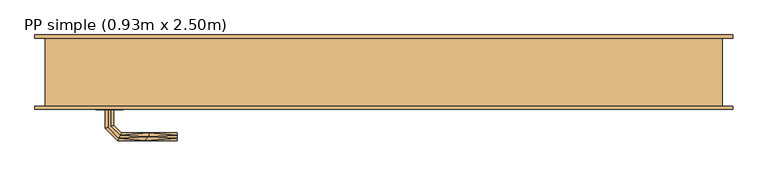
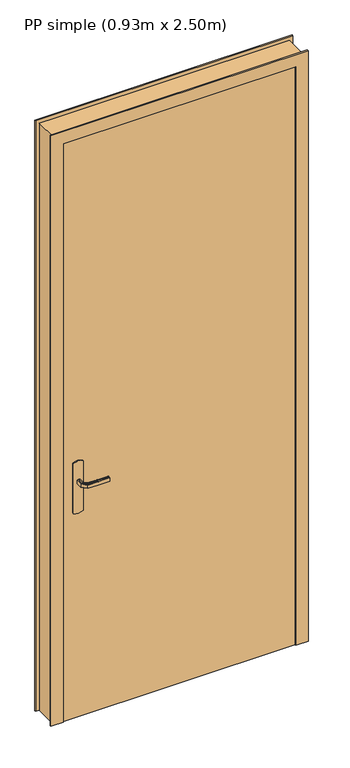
"""IFC4 building model written with IfcOpenShell, lengths in millimetres: door geometry, PP simple (0.93m x 2.50m)."""

from ifc_helpers import new_model, si_unit, frame, origin, origin_with_axes, place, context, project, spatial, polyline, outline, extrude, faceted_brep, source, transform, mapped, element, save


def pp_simple_0_93m_x_2_50m_16770945(model_context):
    return source(origin(), model_context, "Body", "SolidModel", [
        extrude(outline(polyline([(35.0, 40.0), (965.0, 40.0), (965.0, 0.0), (35.0, 0.0), (35.0, 40.0)])), origin_with_axes(), (0.0, 0.0, 1.0), 2450.0),
        faceted_brep([(0.0, 100.0, 0.0), (-15.0, 100.0, 0.0), (-15.0, 105.0, 0.0), (50.0, 105.0, 0.0), (50.0, 40.0, 0.0), (35.0, 40.0, 0.0), (35.0, -5.0, 0.0), (-15.0, -5.0, 0.0), (-15.0, 0.0, 0.0), (0.0, 0.0, 0.0), (0.0, 0.0, 2485.0), (0.0, 100.0, 2485.0), (1000.0, 100.0, 2485.0), (1000.0, 100.0, 0.0), (1015.0, 100.0, 0.0), (1015.0, 100.0, 2500.0), (-15.0, 100.0, 2500.0), (50.0, 105.0, 2435.0), (50.0, 40.0, 2435.0), (950.0, 40.0, 2435.0), (950.0, 40.0, 0.0), (965.0, 40.0, 0.0), (965.0, 40.0, 2450.0), (35.0, 40.0, 2450.0), (1000.0, 0.0, 2485.0), (1000.0, 0.0, 0.0), (1015.0, 0.0, 0.0), (1015.0, -5.0, 0.0), (965.0, -5.0, 0.0), (950.0, 105.0, 0.0), (1015.0, 105.0, 0.0), (950.0, 105.0, 2435.0), (35.0, -5.0, 2450.0), (965.0, -5.0, 2450.0), (1015.0, -5.0, 2500.0), (-15.0, -5.0, 2500.0), (-15.0, 0.0, 2500.0), (1015.0, 0.0, 2500.0), (-15.0, 105.0, 2500.0), (1015.0, 105.0, 2500.0)], [[[0, 1, 2, 3, 4, 5, 6, 7, 8, 9]], [[0, 9, 10, 11]], [[1, 0, 11, 12, 13, 14, 15, 16]], [[3, 17, 18, 4]], [[5, 4, 18, 19, 20, 21, 22, 23]], [[12, 24, 25, 13]], [[13, 25, 26, 27, 28, 21, 20, 29, 30, 14]], [[19, 31, 29, 20]], [[11, 10, 24, 12]], [[18, 17, 31, 19]], [[5, 23, 32, 6]], [[7, 6, 32, 33, 28, 27, 34, 35]], [[8, 7, 35, 36]], [[9, 8, 36, 37, 26, 25, 24, 10]], [[2, 1, 16, 38]], [[3, 2, 38, 39, 30, 29, 31, 17]], [[33, 22, 21, 28]], [[37, 34, 27, 26]], [[39, 15, 14, 30]], [[32, 23, 22, 33]], [[36, 35, 34, 37]], [[38, 16, 15, 39]]]),
        extrude(outline(polyline([(866.0039831, 105.3527618), (870.0, 115.0), (1080.0, 115.0), (1083.9960169, 105.3527618), (1085.3589838, 95.0), (1083.9960169, 84.6472382), (1080.0, 75.0), (870.0, 75.0), (866.0039831, 84.6472382), (864.6410162, 95.0), (866.0039831, 105.3527618)])), frame((0.0, 40.0, 0.0), z_axis=(0.0, 1.0, 0.0), x_axis=(0.0, 0.0, 1.0)), (0.0, 0.0, 1.0), 5.0),
        faceted_brep([(92.9747013, 45.0, 1007.7804408), (89.0, 45.0, 1007.0), (89.0, 45.0, 993.0), (92.9747013, 45.0, 992.2195592), (97.0252987, 45.0, 992.2195592), (101.0, 45.0, 993.0), (101.0, 45.0, 1007.0), (97.0252987, 45.0, 1007.7804408), (101.0, 67.4852045, 993.0), (101.0, 67.4852045, 1007.0), (97.0252987, 69.1315797, 1007.7804408), (110.8389062, 82.9451872, 1007.7804408), (109.1610938, 86.9957845, 1007.7804408), (92.9747013, 70.8093921, 1007.7804408), (89.0, 72.4557673, 1007.0), (89.0, 72.4557673, 993.0), (92.9747013, 70.8093921, 992.2195592), (109.1610938, 86.9957845, 992.2195592), (110.8389062, 82.9451872, 992.2195592), (97.0252987, 69.1315797, 992.2195592), (112.4852814, 78.9704859, 993.0), (112.4852814, 78.9704859, 1007.0), (107.5147186, 90.9704859, 1007.0), (107.5147186, 90.9704859, 993.0), (195.0457837, 78.9704859, 993.0), (195.0457837, 82.9451872, 992.2195592), (195.0457837, 86.9957845, 992.2195592), (195.0457837, 90.9704859, 993.0), (195.0457837, 90.9704859, 1007.0), (195.0457837, 86.9957845, 1007.7804408), (195.0457837, 82.9451872, 1007.7804408), (195.0457837, 78.9704859, 1007.0), (153.7655206, 78.9704859, 993.0), (153.7655325, 78.9704859, 1007.0), (152.9423449, 84.9704859, 1007.8786868), (147.4452058, 90.9704859, 1007.0), (147.4452043, 90.9704859, 993.0), (152.9423451, 84.9704858, 992.1213132)], [[[0, 1, 2, 3, 4, 5, 6, 7]], [[6, 5, 8, 9]], [[9, 10, 7, 6]], [[10, 11, 12, 13, 0, 7]], [[13, 14, 1, 0]], [[2, 1, 14, 15]], [[15, 16, 3, 2]], [[16, 17, 18, 19, 4, 3]], [[19, 8, 5, 4]], [[9, 8, 20, 21]], [[21, 11, 10, 9]], [[12, 22, 14, 13]], [[15, 14, 22, 23]], [[23, 17, 16, 15]], [[18, 20, 8, 19]], [[24, 25, 26, 27, 28, 29, 30, 31]], [[21, 20, 32, 24, 31, 33]], [[33, 30, 34]], [[35, 34, 29]], [[21, 33, 11]], [[33, 31, 30]], [[28, 35, 29]], [[22, 12, 35]], [[35, 12, 34]], [[12, 11, 34]], [[11, 33, 34]], [[29, 34, 30]], [[22, 35, 28, 27, 36, 23]], [[36, 26, 37]], [[27, 26, 36]], [[17, 23, 36]], [[37, 32, 18]], [[20, 18, 32]], [[32, 25, 24]], [[26, 25, 37]], [[25, 32, 37]], [[17, 36, 37]], [[17, 37, 18]]]),
        extrude(outline(polyline([(866.0039831, 105.3527618), (870.0, 115.0), (1080.0, 115.0), (1083.9960169, 105.3527618), (1085.3589838, 95.0), (1083.9960169, 84.6472382), (1080.0, 75.0), (870.0, 75.0), (866.0039831, 84.6472382), (864.6410162, 95.0), (866.0039831, 105.3527618)])), frame((0.0, -5.0, 0.0), z_axis=(0.0, 1.0, 0.0), x_axis=(0.0, 0.0, 1.0)), (0.0, 0.0, 1.0), 5.0),
        faceted_brep([(92.9747013, -5.0, 1007.7804408), (97.0252987, -5.0, 1007.7804408), (101.0, -5.0, 1007.0), (101.0, -5.0, 993.0), (97.0252987, -5.0, 992.2195592), (92.9747013, -5.0, 992.2195592), (89.0, -5.0, 993.0), (89.0, -5.0, 1007.0), (89.0, -32.6509507, 1007.0), (92.9747013, -31.0045755, 1007.7804408), (109.0235852, -47.0534593, 1007.7804408), (110.7013975, -43.002862, 1007.7804408), (97.0252987, -29.3267632, 1007.7804408), (101.0, -27.680388, 1007.0), (101.0, -27.680388, 993.0), (97.0252987, -29.3267632, 992.2195592), (110.7013975, -43.002862, 992.2195592), (109.0235852, -47.0534593, 992.2195592), (92.9747013, -31.0045755, 992.2195592), (89.0, -32.6509507, 993.0), (107.37721, -51.0281607, 1007.0), (112.3477727, -39.0281607, 1007.0), (112.3477727, -39.0281607, 993.0), (107.37721, -51.0281607, 993.0), (195.0186406, -51.0281607, 993.0), (195.0186406, -47.0534593, 992.2195592), (195.0186406, -43.002862, 992.2195592), (195.0186406, -39.0281607, 993.0), (195.0186406, -39.0281607, 1007.0), (195.0186406, -43.002862, 1007.7804408), (195.0186406, -47.0534593, 1007.7804408), (195.0186406, -51.0281607, 1007.0), (147.3076972, -51.0281607, 1007.0), (152.8600191, -45.0281607, 1007.8786868), (153.6832067, -39.0281607, 1007.0), (153.6832067, -39.0281607, 993.0), (152.8600189, -45.0281608, 992.1213132), (147.3077002, -51.0281607, 993.0)], [[[0, 1, 2, 3, 4, 5, 6, 7]], [[8, 9, 0, 7]], [[9, 10, 11, 12, 1, 0]], [[12, 13, 2, 1]], [[3, 2, 13, 14]], [[14, 15, 4, 3]], [[15, 16, 17, 18, 5, 4]], [[18, 19, 6, 5]], [[7, 6, 19, 8]], [[20, 10, 9, 8]], [[11, 21, 13, 12]], [[14, 13, 21, 22]], [[22, 16, 15, 14]], [[17, 23, 19, 18]], [[8, 19, 23, 20]], [[24, 25, 26, 27, 28, 29, 30, 31]], [[32, 30, 33]], [[31, 30, 32]], [[10, 20, 32]], [[33, 34, 11]], [[21, 11, 34]], [[34, 29, 28]], [[30, 29, 33]], [[29, 34, 33]], [[10, 32, 33]], [[10, 33, 11]], [[22, 21, 34, 28, 27, 35]], [[35, 26, 36]], [[37, 36, 25]], [[22, 35, 16]], [[35, 27, 26]], [[24, 37, 25]], [[23, 17, 37]], [[37, 17, 36]], [[17, 16, 36]], [[16, 35, 36]], [[25, 36, 26]], [[20, 23, 37, 24, 31, 32]]]),
    ])


if __name__ == "__main__":
    model = new_model("IFC4")
    model_context = context("Model", 3, world=origin())
    ifc_project = project(units=[si_unit("LENGTHUNIT", "METRE", prefix="MILLI")], contexts=[model_context])
    site = spatial("IfcSite", under=ifc_project)
    building = spatial("IfcBuilding", under=site)
    placement = place(None, origin())
    pp_simple_0_93m_x_2_50m_shape = pp_simple_0_93m_x_2_50m_16770945(model_context)
    element("IfcDoor", 1, ObjectType="PP simple (0.93m x 2.50m)", at=placement, inside=building, context=model_context, shape_type="MappedRepresentation", body=[
        mapped(pp_simple_0_93m_x_2_50m_shape, transform((0.0, 0.0, 0.0), x_axis=(1.0, 0.0, 0.0), y_axis=(0.0, 1.0, 0.0), z_axis=(0.0, 0.0, 1.0))),
    ])
    save(model, "model.ifc")
